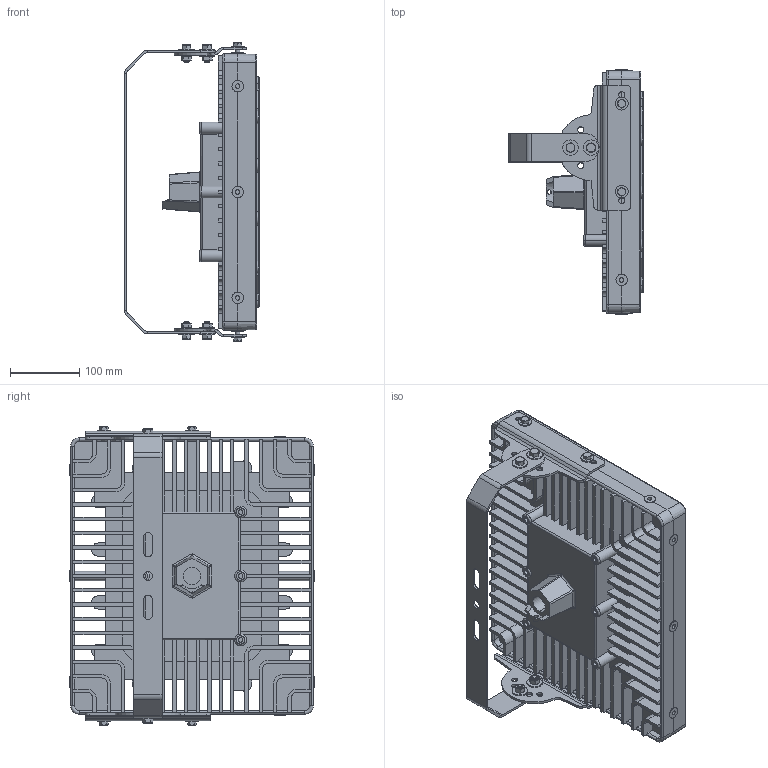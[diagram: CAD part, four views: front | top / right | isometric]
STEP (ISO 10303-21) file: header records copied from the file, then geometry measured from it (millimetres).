
FILE_DESCRIPTION (( 'STEP AP214' ), '1' );
FILE_NAME ('EPL-HB-150LED-RT.STEP', '2021-01-15T18:15:43', ( '' ), ( '' ), 'SwSTEP 2.0', 'SolidWorks 2020', '' );
FILE_SCHEMA (( 'AUTOMOTIVE_DESIGN' ));
Length unit declared in the file: inch
Products named in the file (10): hex bolt_ai_HBOLT 0.3125-18x0.75x0.75-N; hex nut_ai_HNUT 0.3125-18-D-N; EPL-HB-150LED-RT Base; EPL-HB-150LED-RT Bracket; flat washer type b regular_ai_Regular FW 0.3125; flat washer type b regular_ai_Regular FW 0.25; hex bolt_ai_HBOLT 0.2500-20x0.5x0.5-N; EPL-HB-150LED-RT Trunnion; EPL-HB-150LED-RT-SP0129-KT; EPL-HB-150LED-RT
Assembly tree (29 placements, depth 3):
  EPL-HB-150LED-RT
    EPL-HB-150LED-RT Base
    EPL-HB-150LED-RT-SP0129-KT
      EPL-HB-150LED-RT Bracket  x2
      EPL-HB-150LED-RT Trunnion
      flat washer type b regular_ai_Regular FW 0.3125  x8
      hex nut_ai_HNUT 0.3125-18-D-N  x4
      hex bolt_ai_HBOLT 0.3125-18x0.75x0.75-N  x4
    flat washer type b regular_ai_Regular FW 0.25  x4
    hex bolt_ai_HBOLT 0.2500-20x0.5x0.5-N  x4
Bounding box: 194.31 x 351.79 x 429.31 mm (x, y, z)
Volume: 5538083.6 mm3; surface area: 938871.5 mm2
Topology: 28 solids, 28 shells, 2908 faces, 7495 edges, 4599 vertices
Faces by surface type: plane 1310, cylinder 1079, torus 336, cone 136, bspline 47
Entity records: 84220 total; most frequent: CARTESIAN_POINT 20041, ORIENTED_EDGE 13652, DIRECTION 13254, EDGE_CURVE 6826, AXIS2_PLACEMENT_3D 4585, VERTEX_POINT 4195, VECTOR 4084, LINE 4084
